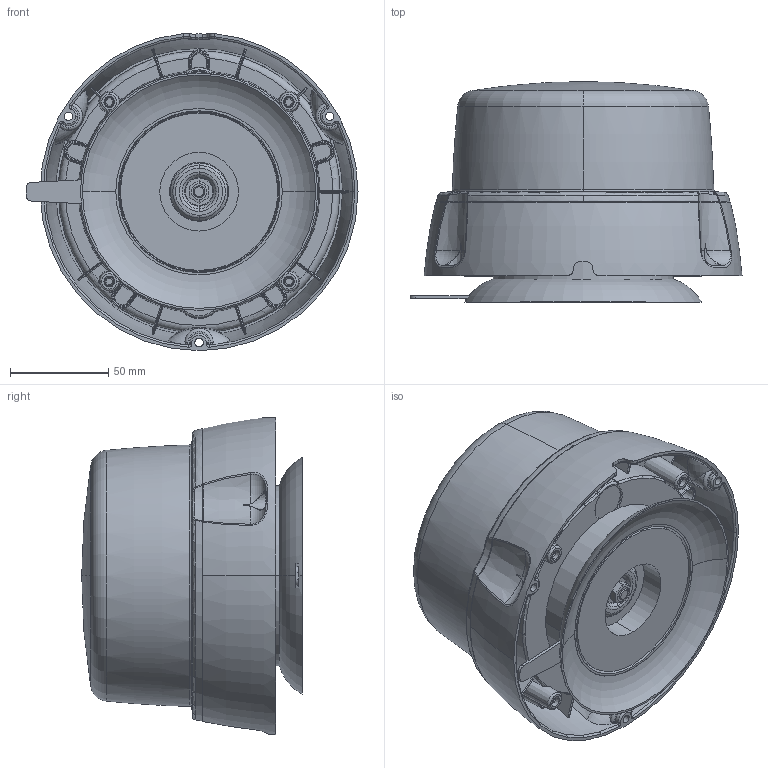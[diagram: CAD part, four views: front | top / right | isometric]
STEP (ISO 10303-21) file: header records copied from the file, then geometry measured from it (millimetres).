
FILE_DESCRIPTION (( 'STEP AP214' ), '1' );
FILE_NAME ('W112+Magnes i przyssawka_Uproszczona.STEP', '2015-07-30T07:09:24', ( 'Marcin' ), ( '' ), 'SwSTEP 2.0', 'SolidWorks 2013', '' );
FILE_SCHEMA (( 'AUTOMOTIVE_DESIGN' ));
Length unit declared in the file: millimetre
Products named in the file (7): W112+Magnes i przyssawka_Uproszczona; Klosz_W02_Uproszczony; Podstawa_W02_Uproszczony; Magnes_W02; Uchwyt magnesa_W02; Przyssawka_W02; Nakretka M6_W02
Assembly tree (6 placements, depth 2):
  W112+Magnes i przyssawka_Uproszczona
    Klosz_W02_Uproszczony
    Podstawa_W02_Uproszczony
    Magnes_W02
    Uchwyt magnesa_W02
    Przyssawka_W02
    Nakretka M6_W02
Bounding box: 168.78 x 112.13 x 161.32 mm (x, y, z)
Volume: 1288055.1 mm3; surface area: 208906.3 mm2
Topology: 6 solids, 6 shells, 802 faces, 1985 edges, 1219 vertices
Faces by surface type: torus 227, cone 185, bspline 176, plane 152, cylinder 60, sphere 2
Entity records: 30926 total; most frequent: CARTESIAN_POINT 12766, ORIENTED_EDGE 3970, DIRECTION 3615, EDGE_CURVE 1985, AXIS2_PLACEMENT_3D 1660, VERTEX_POINT 1219, CIRCLE 1025, EDGE_LOOP 840
